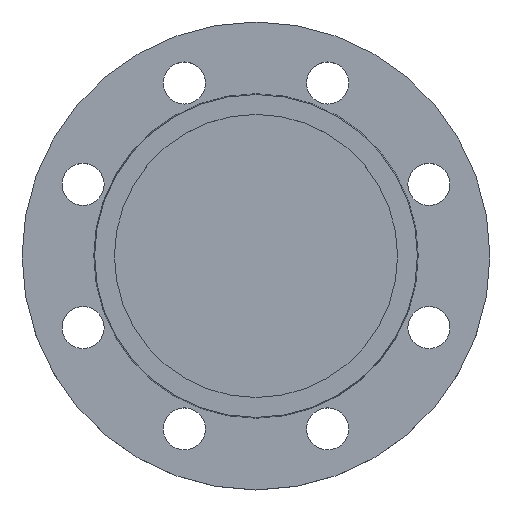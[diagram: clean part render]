
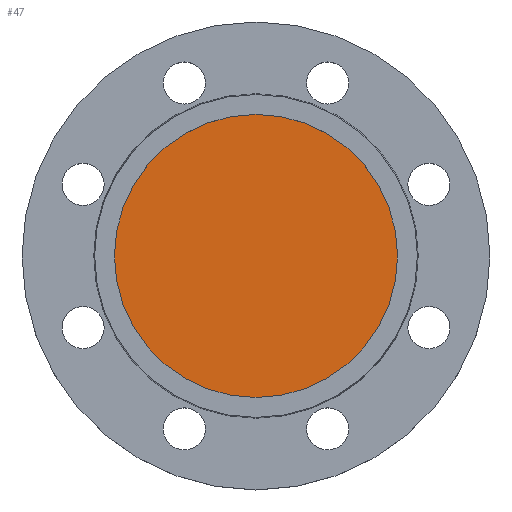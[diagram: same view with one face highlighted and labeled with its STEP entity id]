
A CAD part, top view. The second image highlights one B-rep face of the part: STEP entity #47.
In plain terms, the highlighted planar face has unit normal (0, 0, 1).
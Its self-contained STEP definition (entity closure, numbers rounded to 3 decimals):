
#47 = ADVANCED_FACE ( 'NONE', ( #513 ), #514, .T. ) ;
#103 = CARTESIAN_POINT ( 'NONE',  ( -60.5, 0., -4. ) ) ;
#106 = CARTESIAN_POINT ( 'NONE',  ( 60.5, 0., -4. ) ) ;
#108 = EDGE_CURVE ( 'NONE', #836, #852, #309, .T. ) ;
#120 = AXIS2_PLACEMENT_3D ( 'NONE', #515, #516, #517 ) ;
#309 = CIRCLE ( 'NONE', #312, 60.5 ) ;
#312 = AXIS2_PLACEMENT_3D ( 'NONE', #545, #547, #548 ) ;
#354 = DIRECTION ( 'NONE',  ( -1., 0., 0. ) ) ;
#360 = DIRECTION ( 'NONE',  ( 0., 0., -1. ) ) ;
#362 = CARTESIAN_POINT ( 'NONE',  ( 0., 0., -4. ) ) ;
#408 = EDGE_CURVE ( 'NONE', #852, #836, #438, .T. ) ;
#438 = CIRCLE ( 'NONE', #440, 60.5 ) ;
#440 = AXIS2_PLACEMENT_3D ( 'NONE', #362, #360, #354 ) ;
#513 = FACE_OUTER_BOUND ( 'NONE', #869, .T. ) ;
#514 = PLANE ( 'NONE',  #120 ) ;
#515 = CARTESIAN_POINT ( 'NONE',  ( 60.5, 0., -4. ) ) ;
#516 = DIRECTION ( 'NONE',  ( 0., 0., 1. ) ) ;
#517 = DIRECTION ( 'NONE',  ( 1., 0., 0. ) ) ;
#545 = CARTESIAN_POINT ( 'NONE',  ( 0., 0., -4. ) ) ;
#547 = DIRECTION ( 'NONE',  ( 0., 0., -1. ) ) ;
#548 = DIRECTION ( 'NONE',  ( -1., 0., 0. ) ) ;
#788 = ORIENTED_EDGE ( 'NONE', *, *, #408, .F. ) ;
#789 = ORIENTED_EDGE ( 'NONE', *, *, #108, .F. ) ;
#836 = VERTEX_POINT ( 'NONE', #106 ) ;
#852 = VERTEX_POINT ( 'NONE', #103 ) ;
#869 = EDGE_LOOP ( 'NONE', ( #788, #789 ) ) ;
